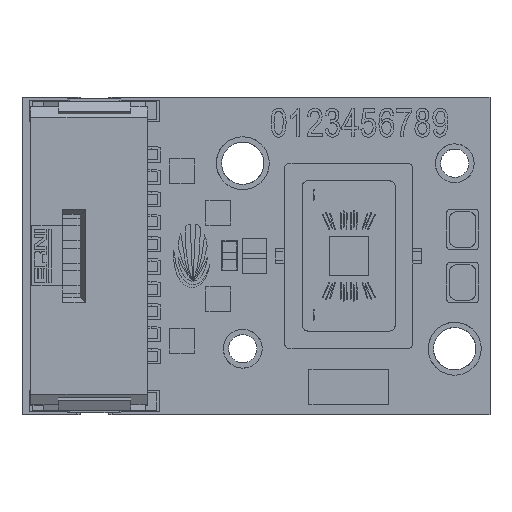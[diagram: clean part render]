
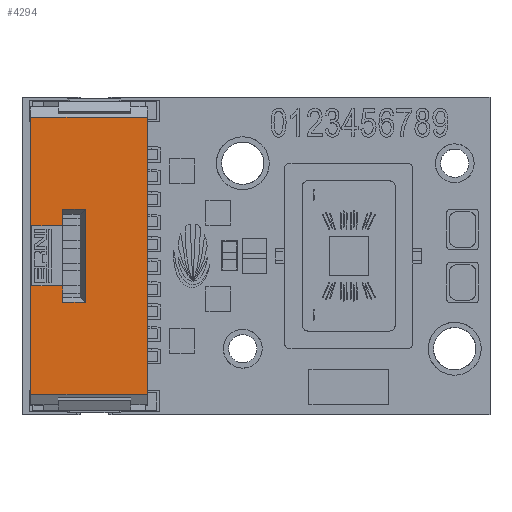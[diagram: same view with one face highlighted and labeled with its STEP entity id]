
A CAD part, top view. The second image highlights one B-rep face of the part: STEP entity #4294.
In plain terms, the highlighted planar face has unit normal (0, 0, 1).
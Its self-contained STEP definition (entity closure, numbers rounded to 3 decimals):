
#4294=ADVANCED_FACE('',(#5296,#4832),#18184,.T.);
#4832=FACE_BOUND('',#6270,.T.);
#5296=FACE_OUTER_BOUND('',#6269,.T.);
#6269=EDGE_LOOP('',(#9063,#9064,#9065,#9066));
#6270=EDGE_LOOP('',(#9067,#9068,#9069,#9070,#9071,#9072,#9073,#9074));
#9063=ORIENTED_EDGE('',*,*,#12601,.T.);
#9064=ORIENTED_EDGE('',*,*,#12602,.T.);
#9065=ORIENTED_EDGE('',*,*,#12603,.T.);
#9066=ORIENTED_EDGE('',*,*,#12604,.T.);
#9067=ORIENTED_EDGE('',*,*,#12612,.T.);
#9068=ORIENTED_EDGE('',*,*,#12605,.T.);
#9069=ORIENTED_EDGE('',*,*,#12606,.T.);
#9070=ORIENTED_EDGE('',*,*,#12607,.T.);
#9071=ORIENTED_EDGE('',*,*,#12608,.T.);
#9072=ORIENTED_EDGE('',*,*,#12609,.T.);
#9073=ORIENTED_EDGE('',*,*,#12610,.T.);
#9074=ORIENTED_EDGE('',*,*,#12611,.T.);
#12601=EDGE_CURVE('',#16947,#16948,#15008,.T.);
#12602=EDGE_CURVE('',#16948,#16949,#15009,.T.);
#12603=EDGE_CURVE('',#16949,#16950,#15010,.T.);
#12604=EDGE_CURVE('',#16950,#16947,#15011,.T.);
#12605=EDGE_CURVE('',#16951,#16952,#15012,.T.);
#12606=EDGE_CURVE('',#16952,#16953,#15013,.T.);
#12607=EDGE_CURVE('',#16953,#16954,#15014,.T.);
#12608=EDGE_CURVE('',#16954,#16955,#15015,.T.);
#12609=EDGE_CURVE('',#16955,#16956,#15016,.T.);
#12610=EDGE_CURVE('',#16956,#16957,#15017,.T.);
#12611=EDGE_CURVE('',#16957,#16958,#15018,.T.);
#12612=EDGE_CURVE('',#16958,#16951,#15019,.T.);
#15008=B_SPLINE_CURVE_WITH_KNOTS('',1,(#36386,#36387),.UNSPECIFIED.,.F.,
 .F.,(2,2),(0.,6.6),.UNSPECIFIED.);
#15009=B_SPLINE_CURVE_WITH_KNOTS('',1,(#36388,#36389),.UNSPECIFIED.,.F.,
 .F.,(2,2),(0.,15.68),.UNSPECIFIED.);
#15010=B_SPLINE_CURVE_WITH_KNOTS('',1,(#36390,#36391),.UNSPECIFIED.,.F.,
 .F.,(2,2),(0.,6.6),.UNSPECIFIED.);
#15011=B_SPLINE_CURVE_WITH_KNOTS('',1,(#36392,#36393),.UNSPECIFIED.,.F.,
 .F.,(2,2),(0.,15.68),.UNSPECIFIED.);
#15012=B_SPLINE_CURVE_WITH_KNOTS('',1,(#36394,#36395),.UNSPECIFIED.,.F.,
 .F.,(2,2),(0.,1.289),.UNSPECIFIED.);
#15013=B_SPLINE_CURVE_WITH_KNOTS('',1,(#36396,#36397),.UNSPECIFIED.,.F.,
 .F.,(2,2),(0.,0.939),.UNSPECIFIED.);
#15014=B_SPLINE_CURVE_WITH_KNOTS('',1,(#36398,#36399),.UNSPECIFIED.,.F.,
 .F.,(2,2),(0.,1.75),.UNSPECIFIED.);
#15015=B_SPLINE_CURVE_WITH_KNOTS('',1,(#36400,#36401),.UNSPECIFIED.,.F.,
 .F.,(2,2),(0.,3.4),.UNSPECIFIED.);
#15016=B_SPLINE_CURVE_WITH_KNOTS('',1,(#36402,#36403),.UNSPECIFIED.,.F.,
 .F.,(2,2),(0.,1.75),.UNSPECIFIED.);
#15017=B_SPLINE_CURVE_WITH_KNOTS('',1,(#36404,#36405),.UNSPECIFIED.,.F.,
 .F.,(2,2),(0.,0.939),.UNSPECIFIED.);
#15018=B_SPLINE_CURVE_WITH_KNOTS('',1,(#36406,#36407),.UNSPECIFIED.,.F.,
 .F.,(2,2),(0.,1.289),.UNSPECIFIED.);
#15019=B_SPLINE_CURVE_WITH_KNOTS('',1,(#36408,#36409),.UNSPECIFIED.,.F.,
 .F.,(2,2),(0.,5.277),.UNSPECIFIED.);
#16947=VERTEX_POINT('',#35630);
#16948=VERTEX_POINT('',#35631);
#16949=VERTEX_POINT('',#35632);
#16950=VERTEX_POINT('',#35633);
#16951=VERTEX_POINT('',#35634);
#16952=VERTEX_POINT('',#35635);
#16953=VERTEX_POINT('',#35636);
#16954=VERTEX_POINT('',#35637);
#16955=VERTEX_POINT('',#35638);
#16956=VERTEX_POINT('',#35639);
#16957=VERTEX_POINT('',#35640);
#16958=VERTEX_POINT('',#35641);
#18184=PLANE('',#19113);
#19113=AXIS2_PLACEMENT_3D('',#35091,#19894,$);
#19894=DIRECTION('',(0.,0.,1.));
#35091=CARTESIAN_POINT('',(-10.74,9.408,3.527));
#35630=CARTESIAN_POINT('',(-11.4,7.84,3.527));
#35631=CARTESIAN_POINT('',(-18.,7.84,3.527));
#35632=CARTESIAN_POINT('',(-18.,-7.84,3.527));
#35633=CARTESIAN_POINT('',(-11.4,-7.84,3.527));
#35634=CARTESIAN_POINT('',(-14.911,-2.639,3.527));
#35635=CARTESIAN_POINT('',(-16.2,-2.639,3.527));
#35636=CARTESIAN_POINT('',(-16.2,-1.7,3.527));
#35637=CARTESIAN_POINT('',(-17.95,-1.7,3.527));
#35638=CARTESIAN_POINT('',(-17.95,1.7,3.527));
#35639=CARTESIAN_POINT('',(-16.2,1.7,3.527));
#35640=CARTESIAN_POINT('',(-16.2,2.639,3.527));
#35641=CARTESIAN_POINT('',(-14.911,2.639,3.527));
#36386=CARTESIAN_POINT('',(-11.4,7.84,3.527));
#36387=CARTESIAN_POINT('',(-18.,7.84,3.527));
#36388=CARTESIAN_POINT('',(-18.,7.84,3.527));
#36389=CARTESIAN_POINT('',(-18.,-7.84,3.527));
#36390=CARTESIAN_POINT('',(-18.,-7.84,3.527));
#36391=CARTESIAN_POINT('',(-11.4,-7.84,3.527));
#36392=CARTESIAN_POINT('',(-11.4,-7.84,3.527));
#36393=CARTESIAN_POINT('',(-11.4,7.84,3.527));
#36394=CARTESIAN_POINT('',(-14.911,-2.639,3.527));
#36395=CARTESIAN_POINT('',(-16.2,-2.639,3.527));
#36396=CARTESIAN_POINT('',(-16.2,-2.639,3.527));
#36397=CARTESIAN_POINT('',(-16.2,-1.7,3.527));
#36398=CARTESIAN_POINT('',(-16.2,-1.7,3.527));
#36399=CARTESIAN_POINT('',(-17.95,-1.7,3.527));
#36400=CARTESIAN_POINT('',(-17.95,-1.7,3.527));
#36401=CARTESIAN_POINT('',(-17.95,1.7,3.527));
#36402=CARTESIAN_POINT('',(-17.95,1.7,3.527));
#36403=CARTESIAN_POINT('',(-16.2,1.7,3.527));
#36404=CARTESIAN_POINT('',(-16.2,1.7,3.527));
#36405=CARTESIAN_POINT('',(-16.2,2.639,3.527));
#36406=CARTESIAN_POINT('',(-16.2,2.639,3.527));
#36407=CARTESIAN_POINT('',(-14.911,2.639,3.527));
#36408=CARTESIAN_POINT('',(-14.911,2.639,3.527));
#36409=CARTESIAN_POINT('',(-14.911,-2.639,3.527));
